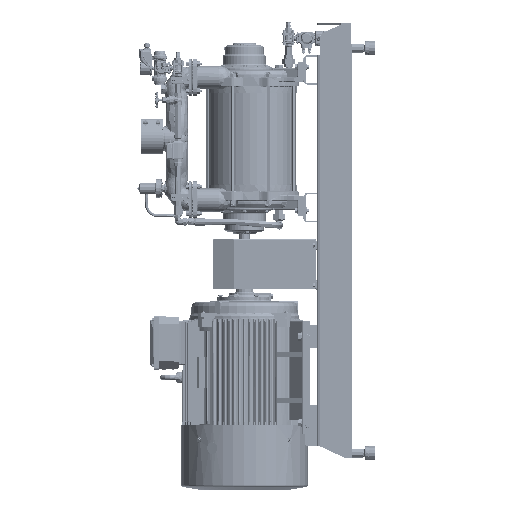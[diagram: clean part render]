
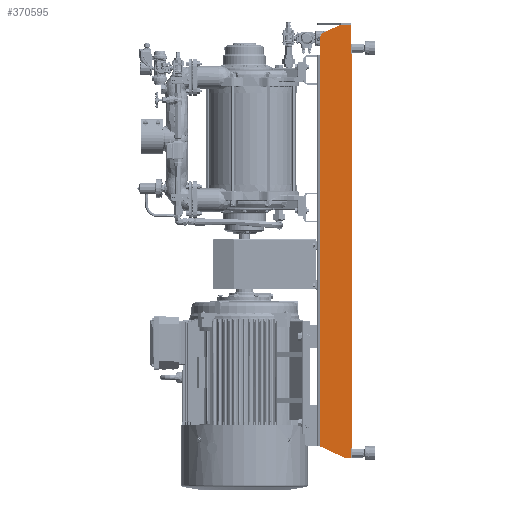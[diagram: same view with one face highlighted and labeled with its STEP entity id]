
A CAD part, left-side view. The second image highlights one B-rep face of the part: STEP entity #370595.
In plain terms, the highlighted planar face has unit normal (-1, 0, 0).
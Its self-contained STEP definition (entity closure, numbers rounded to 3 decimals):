
#10441=PLANE('',#395953);
#41935=FACE_OUTER_BOUND('',#64578,.T.);
#64578=EDGE_LOOP('',(#267139,#267140,#267141,#267142,#267143,#267144,#267145,
#267146,#267147,#267148,#267149,#267150));
#91684=LINE('',#601388,#118584);
#91685=LINE('',#601390,#118585);
#91686=LINE('',#601392,#118586);
#91687=LINE('',#601394,#118587);
#91688=LINE('',#601396,#118588);
#91689=LINE('',#601400,#118589);
#91690=LINE('',#601402,#118590);
#91691=LINE('',#601404,#118591);
#91692=LINE('',#601406,#118592);
#91693=LINE('',#601408,#118593);
#91694=LINE('',#601409,#118594);
#118584=VECTOR('',#446372,10.);
#118585=VECTOR('',#446373,10.);
#118586=VECTOR('',#446374,10.);
#118587=VECTOR('',#446375,10.);
#118588=VECTOR('',#446376,10.);
#118589=VECTOR('',#446379,10.);
#118590=VECTOR('',#446380,10.);
#118591=VECTOR('',#446381,10.);
#118592=VECTOR('',#446382,10.);
#118593=VECTOR('',#446383,10.);
#118594=VECTOR('',#446384,10.);
#138067=CIRCLE('',#395954,25.);
#159513=VERTEX_POINT('',#601386);
#159514=VERTEX_POINT('',#601387);
#159515=VERTEX_POINT('',#601389);
#159516=VERTEX_POINT('',#601391);
#159517=VERTEX_POINT('',#601393);
#159518=VERTEX_POINT('',#601395);
#159519=VERTEX_POINT('',#601397);
#159520=VERTEX_POINT('',#601399);
#159521=VERTEX_POINT('',#601401);
#159522=VERTEX_POINT('',#601403);
#159523=VERTEX_POINT('',#601405);
#159524=VERTEX_POINT('',#601407);
#198753=EDGE_CURVE('',#159513,#159514,#91684,.T.);
#198754=EDGE_CURVE('',#159513,#159515,#91685,.T.);
#198755=EDGE_CURVE('',#159516,#159515,#91686,.T.);
#198756=EDGE_CURVE('',#159517,#159516,#91687,.T.);
#198757=EDGE_CURVE('',#159518,#159517,#91688,.T.);
#198758=EDGE_CURVE('',#159519,#159518,#138067,.T.);
#198759=EDGE_CURVE('',#159520,#159519,#91689,.T.);
#198760=EDGE_CURVE('',#159520,#159521,#91690,.T.);
#198761=EDGE_CURVE('',#159522,#159521,#91691,.T.);
#198762=EDGE_CURVE('',#159523,#159522,#91692,.T.);
#198763=EDGE_CURVE('',#159523,#159524,#91693,.T.);
#198764=EDGE_CURVE('',#159524,#159514,#91694,.T.);
#267139=ORIENTED_EDGE('',*,*,#198753,.F.);
#267140=ORIENTED_EDGE('',*,*,#198754,.T.);
#267141=ORIENTED_EDGE('',*,*,#198755,.F.);
#267142=ORIENTED_EDGE('',*,*,#198756,.F.);
#267143=ORIENTED_EDGE('',*,*,#198757,.F.);
#267144=ORIENTED_EDGE('',*,*,#198758,.F.);
#267145=ORIENTED_EDGE('',*,*,#198759,.F.);
#267146=ORIENTED_EDGE('',*,*,#198760,.T.);
#267147=ORIENTED_EDGE('',*,*,#198761,.F.);
#267148=ORIENTED_EDGE('',*,*,#198762,.F.);
#267149=ORIENTED_EDGE('',*,*,#198763,.T.);
#267150=ORIENTED_EDGE('',*,*,#198764,.T.);
#370595=ADVANCED_FACE('',(#41935),#10441,.T.);
#395953=AXIS2_PLACEMENT_3D('',#601385,#446370,#446371);
#395954=AXIS2_PLACEMENT_3D('',#601398,#446377,#446378);
#446370=DIRECTION('center_axis',(-1.,0.,0.));
#446371=DIRECTION('ref_axis',(0.,0.,
-1.));
#446372=DIRECTION('',(0.,0.,-1.));
#446373=DIRECTION('',(0.,1.,0.));
#446374=DIRECTION('',(0.,0.,-1.));
#446375=DIRECTION('',(0.,-1.,0.));
#446376=DIRECTION('',(0.,-0.906,0.423));
#446377=DIRECTION('center_axis',(1.,0.,0.));
#446378=DIRECTION('ref_axis',(0.,0.843,0.537));
#446379=DIRECTION('',(0.,0.,1.));
#446380=DIRECTION('',(0.,0.,-1.));
#446381=DIRECTION('',(0.,0.906,0.423));
#446382=DIRECTION('',(0.,1.,0.));
#446383=DIRECTION('',(0.,0.,1.));
#446384=DIRECTION('',(0.,-1.,0.));
#601385=CARTESIAN_POINT('Origin',(-283.,432.586,0.));
#601386=CARTESIAN_POINT('',(-283.,0.,840.75));
#601387=CARTESIAN_POINT('',(-283.,0.,-840.75));
#601388=CARTESIAN_POINT('',(-283.,0.,-834.75));
#601389=CARTESIAN_POINT('',(-283.,6.,840.75));
#601390=CARTESIAN_POINT('',(-283.,216.293,840.75));
#601391=CARTESIAN_POINT('',(-283.,6.,964.75));
#601392=CARTESIAN_POINT('',(-283.,6.,964.75));
#601393=CARTESIAN_POINT('',(-283.,51.196,964.75));
#601394=CARTESIAN_POINT('',(-283.,51.196,964.75));
#601395=CARTESIAN_POINT('',(-283.,123.565,931.004));
#601396=CARTESIAN_POINT('',(-283.,138.,924.273));
#601397=CARTESIAN_POINT('',(-283.,138.,908.346));
#601398=CARTESIAN_POINT('Origin',(-283.,113.,908.346));
#601399=CARTESIAN_POINT('',(-283.,138.,834.75));
#601400=CARTESIAN_POINT('',(-283.,138.,834.75));
#601401=CARTESIAN_POINT('',(-283.,138.,-834.75));
#601402=CARTESIAN_POINT('',(-283.,138.,0.));
#601403=CARTESIAN_POINT('',(-283.,30.775,-884.75));
#601404=CARTESIAN_POINT('',(-283.,30.775,-884.75));
#601405=CARTESIAN_POINT('',(-283.,6.,-884.75));
#601406=CARTESIAN_POINT('',(-283.,0.,-884.75));
#601407=CARTESIAN_POINT('',(-283.,6.,-840.75));
#601408=CARTESIAN_POINT('',(-283.,6.,-431.375));
#601409=CARTESIAN_POINT('',(-283.,216.293,-840.75));
